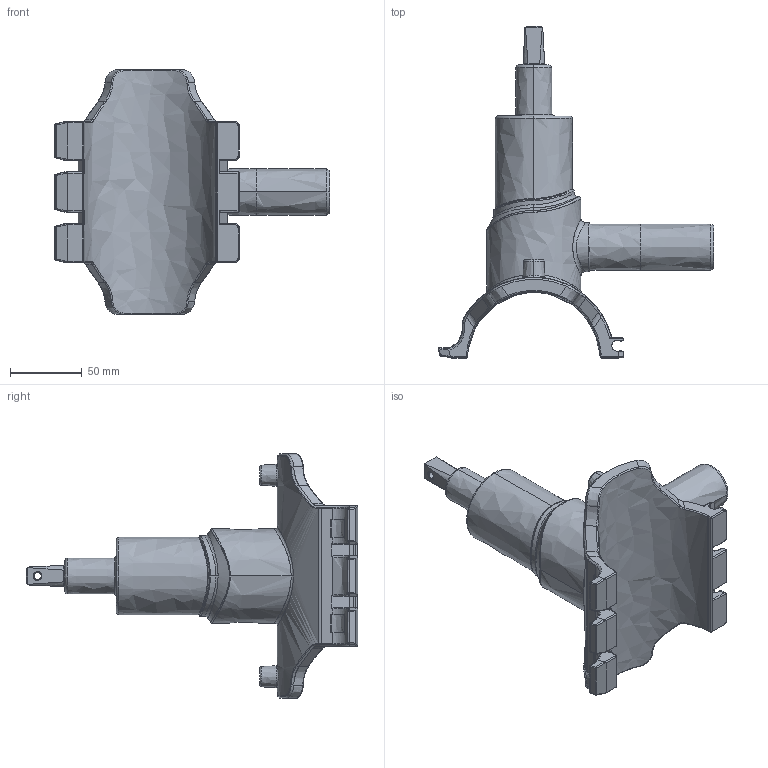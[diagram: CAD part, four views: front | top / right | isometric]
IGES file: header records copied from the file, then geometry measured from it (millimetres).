
Start section:  PTC IGES file: dav2_d90_32_01.igs
Global section: file name: dav2_d90_32_01.igs; native system: Creo Parametric by PTC Inc.; preprocessor: 2019030; author: mikulicp; organization: Unknown; date: 20210622.135812; units: millimetre
Bounding box: 191.41 x 230.7 x 170 mm (x, y, z)
Surface area: 93089.7 mm2 (no closed solid volume)
Topology: 0 solids, 0 shells, 573 faces, 2780 edges, 2774 vertices
Faces by surface type: bspline 573
